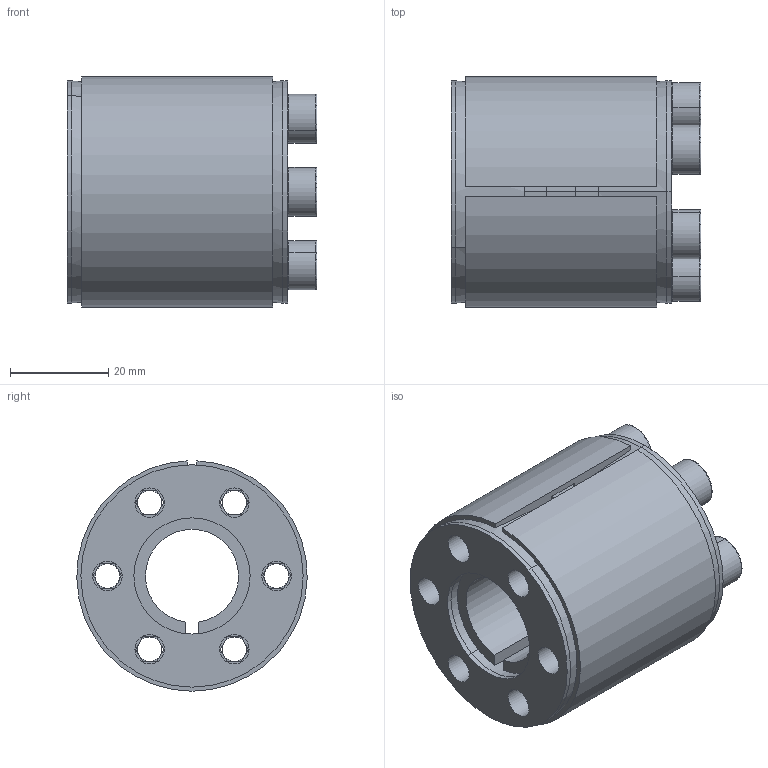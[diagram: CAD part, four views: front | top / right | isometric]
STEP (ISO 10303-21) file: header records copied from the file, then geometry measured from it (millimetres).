
FILE_DESCRIPTION (( 'STEP AP203' ), '1' );
FILE_NAME ('SAPL-D4-19-47 Assy.STEP', '2017-10-10T06:06:07', ( 'MYCOM' ), ( '' ), 'SwSTEP 2.0', 'SolidWorks 2015', '' );
FILE_SCHEMA (( 'CONFIG_CONTROL_DESIGN' ));
Length unit declared in the file: millimetre
Products named in the file (1): SAPL-D4-19-47 Assy
Bounding box: 50.98 x 46.99 x 46.98 mm (x, y, z)
Surface area: 24353.8 mm2 (no closed solid volume)
Topology: 0 solids, 11 shells, 175 faces, 483 edges, 314 vertices
Faces by surface type: plane 88, cylinder 55, torus 24, cone 8
Entity records: 5720 total; most frequent: DIRECTION 1065, CARTESIAN_POINT 1027, ORIENTED_EDGE 832, EDGE_CURVE 483, AXIS2_PLACEMENT_3D 414, VERTEX_POINT 314, CIRCLE 238, LINE 237
